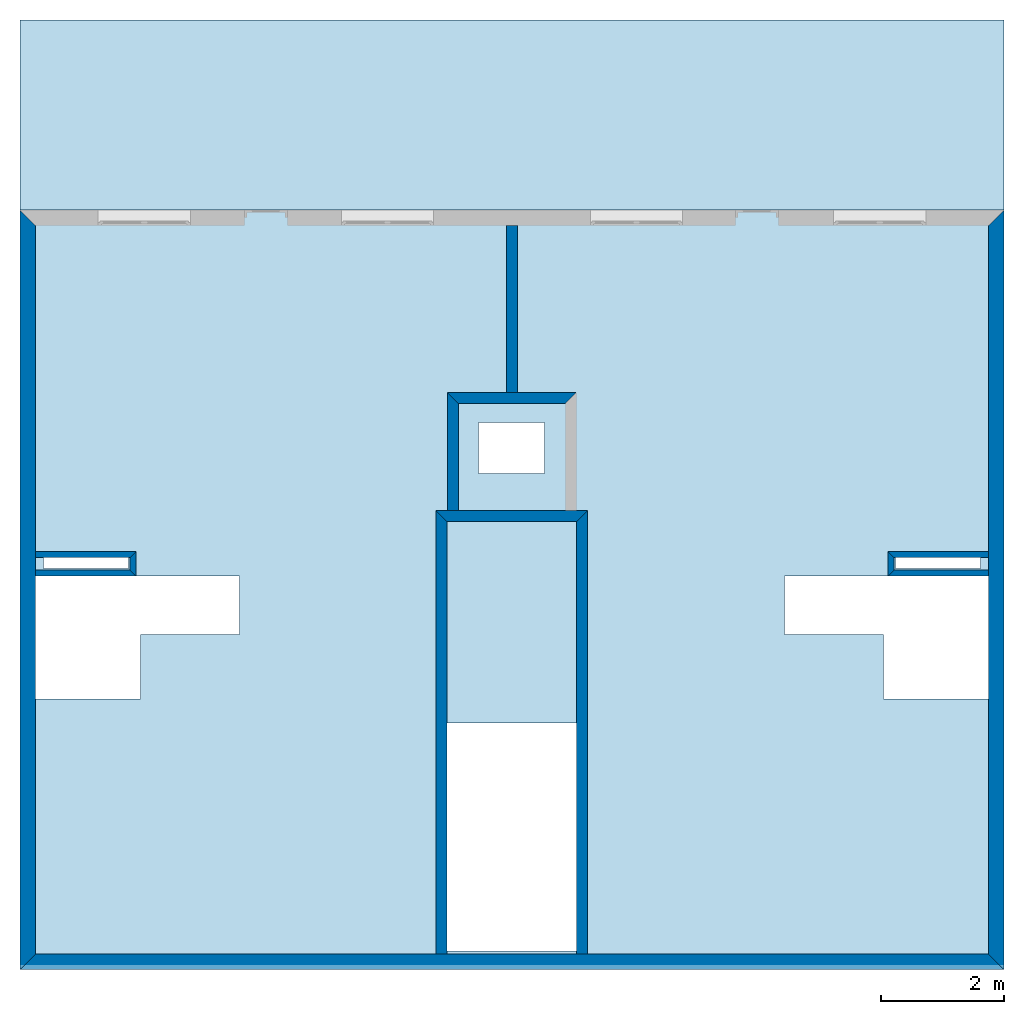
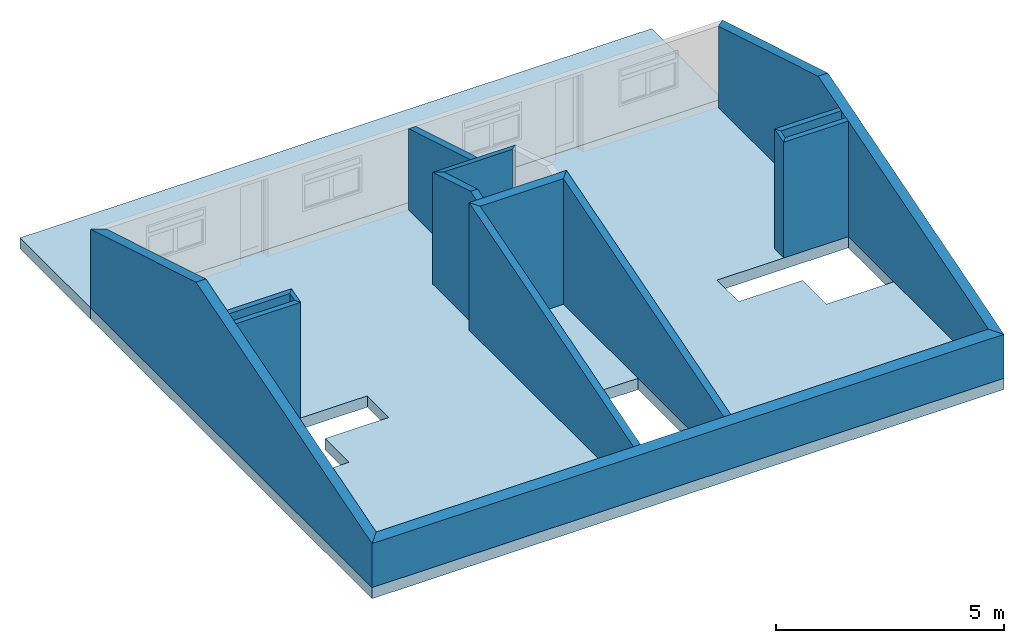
# One storey, part 1 of 3: 15 walls, 2 slabs, 6 openings.
"""IFC2X3 building model written with IfcOpenShell, lengths in metres."""

from ifc_helpers import new_model, entity, si_unit, converted_unit, direction, frame, origin_with_axes, place, context, project, spatial, polyline, outline, extrude, clip, bounded_halfspace, material, layer, layer_set, layer_usage, type_object, element, save


model = new_model("IFC2X3")

# Units and contexts
context_of_model = context(None, 3, precision=1e-05, world=origin_with_axes(), true_north=direction((6.123234e-17, 1.0)))
plan_context = context("Plan", 3, precision=1e-05, world=origin_with_axes(), true_north=direction((6.123234e-17, 1.0)))
model_context = context("Model", 3, precision=1e-05, world=origin_with_axes(), true_north=direction((6.123234e-17, 1.0)))
ifc_project = project(units=[si_unit("LENGTHUNIT", "METRE"), si_unit("AREAUNIT", "SQUARE_METRE"), si_unit("VOLUMEUNIT", "CUBIC_METRE"), converted_unit("PLANEANGLEUNIT", "DEGREE", entity("IfcPlaneAngleMeasure", 0.017453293), si_unit("PLANEANGLEUNIT", "RADIAN"), dimensions=[0, 0, 0, 0, 0, 0, 0]), si_unit("SOLIDANGLEUNIT", "STERADIAN"), si_unit("MASSUNIT", "GRAM"), si_unit("TIMEUNIT", "SECOND"), si_unit("THERMODYNAMICTEMPERATUREUNIT", "DEGREE_CELSIUS"), si_unit("LUMINOUSINTENSITYUNIT", "LUMEN")], contexts=[context_of_model, plan_context, model_context])

# Site, building, storey
site_placement = place(None, origin_with_axes())
site = spatial("IfcSite", under=ifc_project, at=site_placement, Name="Por defecto Sitio", CompositionType="ELEMENT")
building_placement = place(site_placement, origin_with_axes())
building = spatial("IfcBuilding", under=site, at=building_placement, Name="Por defecto Edificio", CompositionType="ELEMENT")
storey_placement = place(building_placement, frame((0.0, 0.0, 16.2), z_axis=(0.0, 0.0, 1.0), x_axis=(1.0, 0.0, 0.0)))
storey = spatial("IfcBuildingStorey", under=building, at=storey_placement, Name="Bajo cubierta", CompositionType="ELEMENT", Elevation=16.2)

# Slab
ifc_material_1 = material(Name="Sólido + Punto&Línea")
ifc_layer_1 = layer(ifc_material_1, 0.3, ventilated="UNKNOWN")
ifc_layer_set_1 = layer_set([ifc_layer_1], Name="Sólido + Punto&Línea")
ifc_layer_usage_1 = layer_usage(ifc_layer_set_1, "AXIS3", "NEGATIVE", 0.3)
slab_1_placement = place(storey_placement, frame((0.0, 15.472599, -0.3), z_axis=(0.0, 0.0, 1.0), x_axis=(1.0, 0.0, 0.0)))
element("IfcSlab", 1, at=slab_1_placement, inside=storey, material=ifc_layer_usage_1, Name="Forj-002", PredefinedType="FLOOR", context=context_of_model, shape_type="SweptSolid", body=[
    extrude(outline(polyline([(0.0, 0.0), (16.03417, 0.0), (16.03417, -3.1), (0.0, -3.1), (0.0, 0.0)])), origin_with_axes(), (0.0, 0.0, 1.0), 0.3),
])

# Slab, openings
ifc_material_2 = material(Name="Hormigón armado")
ifc_layer_2 = layer(ifc_material_2, 0.3, ventilated="UNKNOWN")
ifc_layer_set_2 = layer_set([ifc_layer_2], Name="Hormigón armado")
ifc_layer_usage_2 = layer_usage(ifc_layer_set_2, "AXIS3", "NEGATIVE", 0.3)
slab_2_placement = place(storey_placement, frame((0.0, 0.0, -0.3), z_axis=(0.0, 0.0, 1.0), x_axis=(1.0, 0.0, 0.0)))
slab_2 = element("IfcSlab", 2, at=slab_2_placement, inside=storey, material=ifc_layer_usage_2, Name="Forj-003", PredefinedType="FLOOR", context=context_of_model, shape_type="SweptSolid", body=[
    extrude(outline(polyline([(0.0, 0.0), (16.03417, 0.0), (16.03417, 12.372599), (13.009437, 12.372599), (8.0933397, 12.372599), (7.935, 12.372599), (3.024733, 12.372599), (0.0, 12.372599), (0.0, 0.0)])), origin_with_axes(), (0.0, 0.0, 1.0), 0.3),
])
opening_1_placement = place(slab_2_placement, origin_with_axes())
element("IfcOpeningElement", 3, at=opening_1_placement, cuts=slab_2, context=model_context, shape_type="SweptSolid", body=[
    extrude(outline(polyline([(7.47, 8.9116895), (8.55, 8.9116895), (8.55, 8.0823547), (7.47, 8.0823547), (7.47, 8.9116895)])), origin_with_axes(), (0.0, 0.0, 1.0), 0.3),
])
opening_2_placement = place(slab_2_placement, origin_with_axes())
element("IfcOpeningElement", 4, at=opening_2_placement, cuts=slab_2, context=model_context, shape_type="SweptSolid", body=[
    extrude(outline(polyline([(9.0691698, 4.02), (9.0691698, 0.3), (6.9566603, 0.3), (6.9566603, 4.02), (9.0691698, 4.02)])), origin_with_axes(), (0.0, 0.0, 1.0), 0.3),
])
opening_3_placement = place(slab_2_placement, origin_with_axes())
element("IfcOpeningElement", 5, at=opening_3_placement, cuts=slab_2, context=model_context, shape_type="SweptSolid", body=[
    extrude(outline(polyline([(0.38322798, 6.7112172), (1.7712479, 6.7112172), (1.7701652, 6.5312172), (0.38322798, 6.5312172), (0.38322798, 6.7112172)])), origin_with_axes(), (0.0, 0.0, 1.0), 0.3),
])
opening_4_placement = place(slab_2_placement, origin_with_axes())
element("IfcOpeningElement", 6, at=opening_4_placement, cuts=slab_2, context=model_context, shape_type="SweptSolid", body=[
    extrude(outline(polyline([(14.262757, 6.7112172), (15.650942, 6.7112172), (15.650942, 6.5336768), (14.262757, 6.5328765), (14.262757, 6.7112172)])), origin_with_axes(), (0.0, 0.0, 1.0), 0.3),
])
opening_5_placement = place(slab_2_placement, origin_with_axes())
element("IfcOpeningElement", 7, at=opening_5_placement, cuts=slab_2, context=model_context, shape_type="SweptSolid", body=[
    extrude(outline(polyline([(0.25, 6.4112172), (3.58, 6.4112172), (3.58, 5.4612172), (1.96, 5.4612172), (1.96, 4.4112172), (0.25, 4.4112172), (0.25, 6.4112172)])), origin_with_axes(), (0.0, 0.0, 1.0), 0.3),
])
opening_6_placement = place(slab_2_placement, origin_with_axes())
element("IfcOpeningElement", 8, at=opening_6_placement, cuts=slab_2, context=model_context, shape_type="SweptSolid", body=[
    extrude(outline(polyline([(15.78417, 6.4112172), (15.78417, 4.4112172), (14.07417, 4.4112172), (14.07417, 5.4612172), (12.45417, 5.4612172), (12.45417, 6.4112172), (15.78417, 6.4112172)])), origin_with_axes(), (0.0, 0.0, 1.0), 0.3),
])

# Walls
ifc_material_3 = material(Name="Doble 1:4")
ifc_layer_3 = layer(ifc_material_3, 0.25, ventilated="UNKNOWN")
ifc_layer_set_3 = layer_set([ifc_layer_3], Name="Doble 1:4")
ifc_layer_usage_3 = layer_usage(ifc_layer_set_3, "AXIS2", "NEGATIVE", 0.0)
wall_type_1 = type_object("IfcWallType", Name="Doble 1:4", PredefinedType="NOTDEFINED")
wall_1_placement = place(storey_placement, frame((16.03417, 12.372599, 0.0), z_axis=(0.0, 0.0, 1.0), x_axis=(-5.9725886e-14, -1.0, 0.0)))
element("IfcWallStandardCase", 9, at=wall_1_placement, inside=storey, type_object=wall_type_1, material=ifc_layer_usage_3, Name="Muro-017", context=context_of_model, shape_type="Clipping", body=[
    clip(clip(extrude(outline(polyline([(0.25, -0.25), (12.122599, -0.25), (12.372599, 0.0), (0.0, 0.0), (0.25, -0.25)])), origin_with_axes(), (0.0, 0.0, 1.0), 3.5), bounded_halfspace(frame((1.3461887, 8.0205507e-14, 4.4870806), z_axis=(0.28736052, 1.7120851e-14, 0.95782249), x_axis=(0.0, 1.0, 0.0)), False, origin_with_axes(), polyline([(4.6362995, -16.03417), (13.655494, -16.03417), (13.655494, 2.5224267e-13), (4.6362995, -2.8776981e-13), (4.6362995, -16.03417)]))), bounded_halfspace(frame((-0.58049391, -3.469519e-14, 1.934887), z_axis=(-0.28736052, -1.7175077e-14, 0.95782249), x_axis=(0.0, 1.0, 0.0)), False, origin_with_axes(), polyline([(4.6362995, -16.03417), (4.6362995, -2.8776981e-13), (-0.40882873, -5.8975047e-13), (-0.40882873, -16.03417), (4.6362995, -16.03417)]))),
])
ifc_layer_usage_4 = layer_usage(ifc_layer_set_3, "AXIS2", "NEGATIVE", 0.0)
wall_2_placement = place(storey_placement, frame((0.0, 0.0, 0.0), z_axis=(0.0, 0.0, 1.0), x_axis=(0.0, 1.0, 0.0)))
element("IfcWallStandardCase", 10, at=wall_2_placement, inside=storey, type_object=wall_type_1, material=ifc_layer_usage_4, Name="Muro-011", context=context_of_model, shape_type="Clipping", body=[
    clip(clip(extrude(outline(polyline([(0.25, -0.25), (12.122599, -0.25), (12.372599, 0.0), (0.0, 0.0), (0.25, -0.25)])), origin_with_axes(), (0.0, 0.0, 1.0), 3.5), bounded_halfspace(frame((-0.3245081, 3.4758332e-17, 1.0816418), z_axis=(-0.28736052, 3.0779424e-17, 0.95782249), x_axis=(0.0, 1.0, 0.0)), False, origin_with_axes(), polyline([(7.7362995, 0.0), (-1.2828945, 0.0), (-1.2828945, -16.03417), (7.7362995, -16.03417), (7.7362995, 0.0)]))), bounded_halfspace(frame((1.6021745, 8.0647351e-17, 5.3403257), z_axis=(0.28736052, 1.4464632e-17, 0.95782249), x_axis=(0.0, 1.0, 0.0)), False, origin_with_axes(), polyline([(7.7362995, 0.0), (7.7362995, -16.03417), (12.781428, -16.03417), (12.781428, 0.0), (7.7362995, 0.0)]))),
])
ifc_material_4 = material(Name="Ladrillo común")
ifc_layer_4 = layer(ifc_material_4, 0.25, ventilated="UNKNOWN")
ifc_layer_set_4 = layer_set([ifc_layer_4], Name="Ladrillo común")
ifc_layer_usage_5 = layer_usage(ifc_layer_set_4, "AXIS2", "NEGATIVE", 0.0)
wall_type_2 = type_object("IfcWallType", Name="Ladrillo común", PredefinedType="NOTDEFINED")
wall_3_placement = place(storey_placement, frame((16.03417, -1.1368684e-13, 0.0), z_axis=(0.0, 0.0, 1.0), x_axis=(-1.0, 7.0902852e-15, 0.0)))
element("IfcWallStandardCase", 11, at=wall_3_placement, inside=storey, type_object=wall_type_2, material=ifc_layer_usage_5, Name="Muro-011", context=context_of_model, shape_type="Clipping", body=[
    clip(extrude(outline(polyline([(0.25, -0.25), (15.78417, -0.25), (16.03417, 0.0), (0.0, 0.0), (0.25, -0.25)])), origin_with_axes(), (0.0, 0.0, 1.0), 3.5), bounded_halfspace(frame((-2.2477937e-15, 0.3245081, 1.0816418), z_axis=(-1.9904809e-15, 0.28736052, 0.95782249), x_axis=(0.0, 0.95782249, -0.28736052)), False, origin_with_axes(), polyline([(16.03417, -7.7362995), (16.03417, 1.2828945), (-1.8474111e-13, 1.2828945), (-1.2079227e-13, -7.7362995), (16.03417, -7.7362995)]))),
])
ifc_layer_5 = layer(ifc_material_4, 0.18, ventilated="UNKNOWN")
ifc_layer_set_5 = layer_set([ifc_layer_5], Name="Ladrillo común")
ifc_layer_usage_6 = layer_usage(ifc_layer_set_5, "AXIS2", "POSITIVE", 0.0)
wall_type_3 = type_object("IfcWallType", Name="Ladrillo común", PredefinedType="NOTDEFINED")
wall_4_placement = place(storey_placement, frame((9.0691698, 7.2976562, 0.0), z_axis=(0.0, 0.0, 1.0), x_axis=(0.0, -1.0, 0.0)))
element("IfcWallStandardCase", 12, at=wall_4_placement, inside=storey, type_object=wall_type_3, material=ifc_layer_usage_6, Name="Muro-010", context=context_of_model, shape_type="Clipping", body=[
    clip(extrude(outline(polyline([(0.0, 0.0), (7.0476562, 0.0), (7.0476562, 0.18), (-0.18, 0.18), (0.0, 0.0)])), origin_with_axes(), (0.0, 0.0, 1.0), 3.5), bounded_halfspace(frame((0.92711986, -9.9304579e-17, 3.0902514), z_axis=(0.28736052, -3.0779424e-17, 0.95782249), x_axis=(0.0, 1.0, 0.0)), False, origin_with_axes(), polyline([(-0.43864329, -9.0691698), (8.5805507, -9.0691698), (8.5805507, 6.965), (-0.43864329, 6.965), (-0.43864329, -9.0691698)]))),
])
ifc_layer_usage_7 = layer_usage(ifc_layer_set_5, "AXIS2", "NEGATIVE", 0.0)
wall_5_placement = place(storey_placement, frame((6.9566603, 7.2976562, 0.0), z_axis=(0.0, 0.0, 1.0), x_axis=(0.0, -1.0, 0.0)))
element("IfcWallStandardCase", 13, at=wall_5_placement, inside=storey, type_object=wall_type_3, material=ifc_layer_usage_7, Name="Muro-010", context=context_of_model, shape_type="Clipping", body=[
    clip(extrude(outline(polyline([(-0.18, -0.18), (7.0476562, -0.18), (7.0476562, 0.0), (-8.0824236e-14, 0.0), (-0.18, -0.18)])), origin_with_axes(), (0.0, 0.0, 1.0), 3.5), bounded_halfspace(frame((0.92711986, -9.9304579e-17, 3.0902514), z_axis=(0.28736052, -3.0779424e-17, 0.95782249), x_axis=(0.0, 1.0, 0.0)), False, origin_with_axes(), polyline([(-0.43864329, -6.9566603), (8.5805507, -6.9566603), (8.5805507, 9.0775095), (-0.43864329, 9.0775095), (-0.43864329, -6.9566603)]))),
])
ifc_layer_usage_8 = layer_usage(ifc_layer_set_5, "AXIS2", "POSITIVE", 0.0)
wall_6_placement = place(storey_placement, frame((6.9566603, 7.2976562, 0.0), z_axis=(0.0, 0.0, 1.0), x_axis=(1.0, 0.0, 0.0)))
element("IfcWallStandardCase", 14, at=wall_6_placement, inside=storey, type_object=wall_type_3, material=ifc_layer_usage_8, Name="Muro-009", context=context_of_model, shape_type="Clipping", body=[
    clip(extrude(outline(polyline([(0.0, 0.0), (2.1125095, 0.0), (2.2925095, 0.18), (-0.18, 0.18), (0.0, 0.0)])), origin_with_axes(), (0.0, 0.0, 1.0), 3.5), bounded_halfspace(frame((3.5262665e-14, -0.92711986, 3.0902514), z_axis=(1.0929652e-14, -0.28736052, 0.95782249), x_axis=(0.0, 0.95782249, 0.28736052)), False, origin_with_axes(), polyline([(-6.9566603, 0.43864329), (-6.9566603, -8.5805507), (9.0775095, -8.5805507), (9.0775095, 0.43864329), (-6.9566603, 0.43864329)]))),
])
ifc_layer_usage_9 = layer_usage(ifc_layer_set_5, "AXIS2", "NEGATIVE", 0.0)
wall_7_placement = place(storey_placement, frame((6.965, 7.2976562, 0.0), z_axis=(0.0, 0.0, 1.0), x_axis=(0.0, 1.0, 0.0)))
element("IfcWallStandardCase", 15, at=wall_7_placement, inside=storey, type_object=wall_type_3, material=ifc_layer_usage_9, Name="Muro-011", context=context_of_model, shape_type="Clipping", body=[
    clip(clip(extrude(outline(polyline([(0.18, -0.18), (1.9231052, -0.18), (2.1031052, 0.0), (0.18, 8.8817842e-16), (0.18, -0.18)])), origin_with_axes(), (0.0, 0.0, 1.0), 3.5), bounded_halfspace(frame((-0.92711986, -2.4931324e-14, 3.0902514), z_axis=(-0.28736052, -7.7274564e-15, 0.95782249), x_axis=(0.0, 1.0, 0.0)), False, origin_with_axes(), polyline([(0.43864329, 6.965), (-8.5805507, 6.965), (-8.5805507, -9.0691698), (0.43864329, -9.0691698), (0.43864329, 6.965)]))), bounded_halfspace(frame((0.99956273, 2.7076463e-14, 3.3317161), z_axis=(0.28736052, 7.7841102e-15, 0.95782249), x_axis=(0.0, 1.0, 0.0)), False, origin_with_axes(), polyline([(0.43864329, 6.965), (0.43864329, -9.0691698), (5.4837715, -9.0691698), (5.4837715, 6.965), (0.43864329, 6.965)]))),
])
ifc_layer_usage_10 = layer_usage(ifc_layer_set_5, "AXIS2", "NEGATIVE", 0.0)
wall_8_placement = place(storey_placement, frame((6.965, 9.4007615, 0.0), z_axis=(0.0, 0.0, 1.0), x_axis=(1.0, 0.0, 0.0)))
element("IfcWallStandardCase", 16, at=wall_8_placement, inside=storey, type_object=wall_type_3, material=ifc_layer_usage_10, Name="Muro-012", context=context_of_model, shape_type="Clipping", body=[
    clip(extrude(outline(polyline([(0.18, -0.18), (1.92, -0.18), (2.1, 0.0), (-8.8817842e-16, 0.0), (0.18, -0.18)])), origin_with_axes(), (0.0, 0.0, 1.0), 3.5), bounded_halfspace(frame((4.467403e-14, 0.82589657, 2.7528566), z_axis=(1.5543777e-14, 0.28736052, 0.95782249), x_axis=(0.0, 0.95782249, -0.28736052)), False, origin_with_axes(), polyline([(-6.965, -1.6644619), (9.0691698, -1.6644619), (9.0691698, 3.3806663), (-6.965, 3.3806663), (-6.965, -1.6644619)]))),
])
ifc_layer_usage_11 = layer_usage(ifc_layer_set_5, "AXIS2", "NEGATIVE", 0.09)
wall_9_placement = place(storey_placement, frame((8.014856, 9.4007615, 0.0), z_axis=(0.0, 0.0, 1.0), x_axis=(0.00075000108, 0.99999972, 0.0)))
element("IfcWallStandardCase", 17, at=wall_9_placement, inside=storey, type_object=wall_type_3, material=ifc_layer_usage_11, Name="Muro-018", context=context_of_model, shape_type="Clipping", body=[
    clip(extrude(outline(polyline([(6.7500116e-05, -0.09), (2.7219058, -0.09), (2.7217708, 0.09), (-6.7500116e-05, 0.09), (6.7500116e-05, -0.09)])), origin_with_axes(), (0.0, 0.0, 1.0), 3.5), bounded_halfspace(frame((0.82589634, 0.00061942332, 2.7528566), z_axis=(0.28736044, 0.0002155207, 0.95782249), x_axis=(0.0, 0.99999997, -0.0002250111)), False, origin_with_axes(), polyline([(-1.6704726, 8.0136054), (-1.658447, -8.0205599), (3.3866799, -8.016776), (3.3746542, 8.0173893), (-1.6704726, 8.0136054)]))),
])
ifc_layer_6 = layer(ifc_material_4, 0.1, ventilated="UNKNOWN")
ifc_layer_set_6 = layer_set([ifc_layer_6], Name="Ladrillo común")
ifc_layer_usage_12 = layer_usage(ifc_layer_set_6, "AXIS2", "POSITIVE", 0.0)
wall_type_4 = type_object("IfcWallType", Name="Ladrillo común", PredefinedType="NOTDEFINED")
wall_10_placement = place(storey_placement, frame((14.144005, 6.4112172, 0.0), z_axis=(0.0, 0.0, 1.0), x_axis=(1.0, 0.0, 0.0)))
element("IfcWallStandardCase", 18, at=wall_10_placement, inside=storey, type_object=wall_type_4, material=ifc_layer_usage_12, Name="Muro-033", context=context_of_model, shape_type="Clipping", body=[
    clip(extrude(outline(polyline([(0.0, 0.0), (1.6401652, 0.0), (1.6401652, 0.1), (0.1, 0.1), (0.0, 0.0)])), origin_with_axes(), (0.0, 0.0, 1.0), 3.5), bounded_halfspace(frame((-9.1464211e-17, -0.85392121, 2.8462676), z_axis=(-3.0779424e-17, -0.28736052, 0.95782249), x_axis=(0.0, 0.95782249, 0.28736052)), False, origin_with_axes(), polyline([(-14.144005, 1.3250823), (-14.144005, -7.6941117), (1.8901652, -7.6941117), (1.8901652, 1.3250823), (-14.144005, 1.3250823)]))),
])
ifc_layer_usage_13 = layer_usage(ifc_layer_set_6, "AXIS2", "POSITIVE", 0.0)
wall_11_placement = place(storey_placement, frame((14.144005, 6.8112172, 0.0), z_axis=(0.0, 0.0, 1.0), x_axis=(0.0, -1.0, 0.0)))
element("IfcWallStandardCase", 19, at=wall_11_placement, inside=storey, type_object=wall_type_4, material=ifc_layer_usage_13, Name="Muro-032", context=context_of_model, shape_type="Clipping", body=[
    clip(extrude(outline(polyline([(0.0, 0.0), (0.4, 0.0), (0.3, 0.1), (0.1, 0.1), (0.0, 0.0)])), origin_with_axes(), (0.0, 0.0, 1.0), 3.5), bounded_halfspace(frame((0.88695163, -9.5002127e-17, 2.9563638), z_axis=(0.28736052, -3.0779424e-17, 0.95782249), x_axis=(0.0, 1.0, 0.0)), False, origin_with_axes(), polyline([(-0.92508234, -14.144005), (8.0941117, -14.144005), (8.0941117, 1.8901652), (-0.92508234, 1.8901652), (-0.92508234, -14.144005)]))),
])
ifc_layer_usage_14 = layer_usage(ifc_layer_set_6, "AXIS2", "POSITIVE", 0.0)
wall_12_placement = place(storey_placement, frame((16.03417, 6.8112172, 0.0), z_axis=(0.0, 0.0, 1.0), x_axis=(-1.0, 0.0, 0.0)))
element("IfcWallStandardCase", 20, at=wall_12_placement, inside=storey, type_object=wall_type_4, material=ifc_layer_usage_14, Name="Muro-031", context=context_of_model, shape_type="Clipping", body=[
    clip(extrude(outline(polyline([(0.25, 0.0), (1.8901652, 0.0), (1.7901652, 0.1), (0.25, 0.1), (0.25, 0.0)])), origin_with_axes(), (0.0, 0.0, 1.0), 3.5), bounded_halfspace(frame((9.5002127e-17, 0.88695163, 2.9563638), z_axis=(3.0779424e-17, 0.28736052, 0.95782249), x_axis=(0.0, 0.95782249, -0.28736052)), False, origin_with_axes(), polyline([(16.03417, -0.92508234), (16.03417, 8.0941117), (5.6488147e-13, 8.0941117), (5.6488147e-13, -0.92508234), (16.03417, -0.92508234)]))),
])
ifc_layer_usage_15 = layer_usage(ifc_layer_set_6, "AXIS2", "NEGATIVE", 0.0)
wall_13_placement = place(storey_placement, frame((1.8901652, 6.4112172, 0.0), z_axis=(0.0, 0.0, 1.0), x_axis=(-1.0, 0.0, 0.0)))
element("IfcWallStandardCase", 21, at=wall_13_placement, inside=storey, type_object=wall_type_4, material=ifc_layer_usage_15, Name="Muro-030", context=context_of_model, shape_type="Clipping", body=[
    clip(extrude(outline(polyline([(0.1, -0.1), (1.6401652, -0.1), (1.6401652, 0.0), (0.0, 0.0), (0.1, -0.1)])), origin_with_axes(), (0.0, 0.0, 1.0), 3.5), bounded_halfspace(frame((9.1464211e-17, 0.85392121, 2.8462676), z_axis=(3.0779424e-17, 0.28736052, 0.95782249), x_axis=(0.0, 0.95782249, -0.28736052)), False, origin_with_axes(), polyline([(1.8901652, -1.3250823), (1.8901652, 7.6941117), (-14.144005, 7.6941117), (-14.144005, -1.3250823), (1.8901652, -1.3250823)]))),
])
ifc_layer_usage_16 = layer_usage(ifc_layer_set_6, "AXIS2", "NEGATIVE", 0.0)
wall_14_placement = place(storey_placement, frame((1.8901652, 6.8112172, 0.0), z_axis=(0.0, 0.0, 1.0), x_axis=(2.8421709e-13, -1.0, 0.0)))
element("IfcWallStandardCase", 22, at=wall_14_placement, inside=storey, type_object=wall_type_4, material=ifc_layer_usage_16, Name="Muro-029", context=context_of_model, shape_type="Clipping", body=[
    clip(extrude(outline(polyline([(0.1, -0.1), (0.3, -0.1), (0.4, 0.0), (0.0, 0.0), (0.1, -0.1)])), origin_with_axes(), (0.0, 0.0, 1.0), 3.5), bounded_halfspace(frame((0.88695163, -2.5226521e-13, 2.9563638), z_axis=(0.28736052, -8.173057e-14, 0.95782249), x_axis=(0.0, 1.0, 0.0)), False, origin_with_axes(), polyline([(-0.92508234, -1.8901652), (8.0941117, -1.8901652), (8.0941117, 14.144005), (-0.92508234, 14.144005), (-0.92508234, -1.8901652)]))),
])
ifc_layer_usage_17 = layer_usage(ifc_layer_set_6, "AXIS2", "NEGATIVE", 0.0)
wall_15_placement = place(storey_placement, frame((0.0, 6.8112172, 0.0), z_axis=(0.0, 0.0, 1.0), x_axis=(1.0, 0.0, 0.0)))
element("IfcWallStandardCase", 23, at=wall_15_placement, inside=storey, type_object=wall_type_4, material=ifc_layer_usage_17, Name="Muro-028", context=context_of_model, shape_type="Clipping", body=[
    clip(extrude(outline(polyline([(0.25, -0.1), (1.7901652, -0.1), (1.8901652, 0.0), (0.25, 0.0), (0.25, -0.1)])), origin_with_axes(), (0.0, 0.0, 1.0), 3.5), bounded_halfspace(frame((-9.5002127e-17, -0.88695163, 2.9563638), z_axis=(-3.0779424e-17, -0.28736052, 0.95782249), x_axis=(0.0, 0.95782249, 0.28736052)), False, origin_with_axes(), polyline([(0.0, 0.92508234), (0.0, -8.0941117), (16.03417, -8.0941117), (16.03417, 0.92508234), (0.0, 0.92508234)]))),
])

save(model, "model.ifc")
